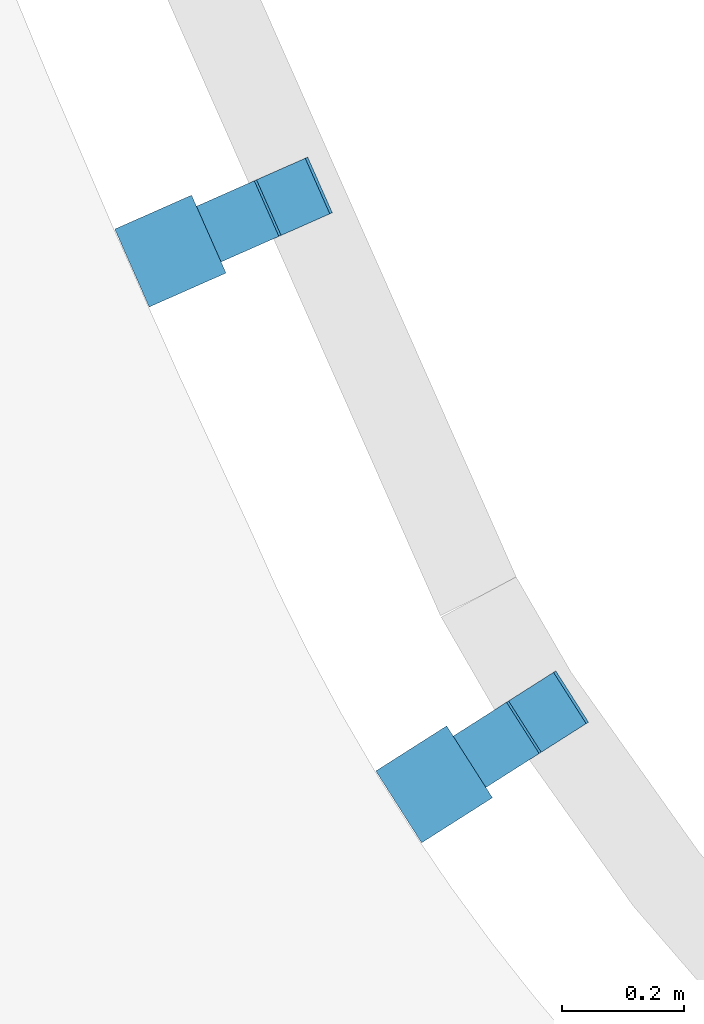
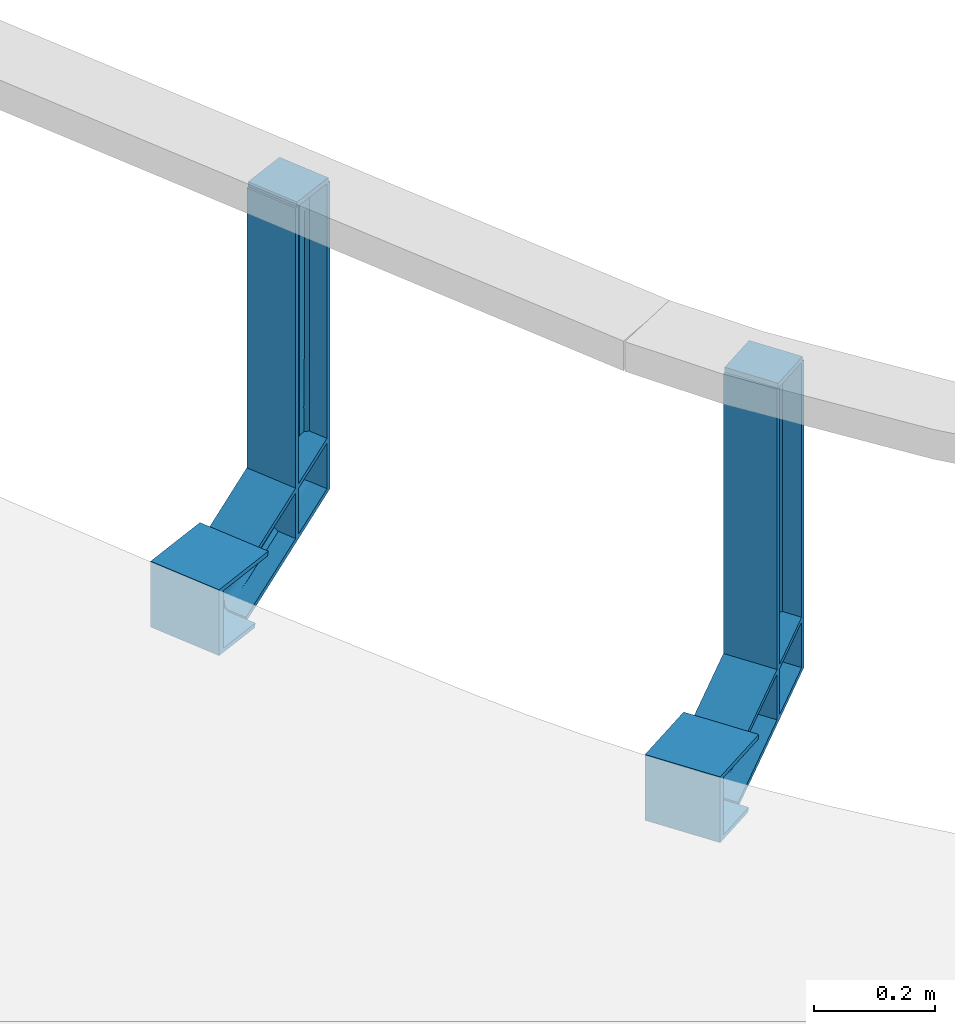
# One storey, part 34 of 68: 2 beams.
"""IFC2X3 building model written with IfcOpenShell, lengths in millimetres."""

import ifcopenshell
import ifcopenshell.guid

model = None  # the IFC model being written
_history = None  # IfcOwnerHistory: only IFC2X3 demands one
_inside = {}  # id of a spatial element -> (the spatial element, [elements in it])
_under = {}  # id of a project, library or spatial element -> (it, [spatial elements below it])
_declared = {}  # id of a project -> (the project, [libraries it declares])
_typed = {}  # id of a type object -> (the type object, [elements of that type])
_made_of = {}  # id of a material, layer set ... -> (it, [elements and type objects made of it])


def new_model(schema):
    """Start an empty IFC model of exactly this schema.

    Asked for "IFC4X3", IfcOpenShell would pick the latest addendum, in which some entities
    have other attributes; the version numbers below select the first issue.
    IFC2X3 requires an IfcOwnerHistory on every rooted entity: one is made here for all.
    """
    global model, _history
    if schema == "IFC4X3":
        model = ifcopenshell.file(schema_version=(4, 3, 0, 0))
    else:
        model = ifcopenshell.file(schema=schema)
    _inside.clear()
    _under.clear()
    _declared.clear()
    _typed.clear()
    _made_of.clear()
    _history = None
    if model.schema == "IFC2X3":
        org = make("IfcOrganization", Name="unknown")
        user = make(
            "IfcPersonAndOrganization",
            ThePerson=make("IfcPerson", FamilyName="unknown"),
            TheOrganization=org,
        )
        app = make(
            "IfcApplication",
            ApplicationDeveloper=org,
            Version="unknown",
            ApplicationFullName="unknown",
            ApplicationIdentifier="unknown",
        )
        _history = make(
            "IfcOwnerHistory",
            OwningUser=user,
            OwningApplication=app,
            ChangeAction="ADDED",
            CreationDate=0,
        )
    return model


def make(cls, **values):
    """One entity of the class cls with the attributes given. An attribute that is None is left unset."""
    return model.create_entity(
        cls, **{name: value for name, value in values.items() if value is not None}
    )


def entity(cls, *values):
    """Any entity or typed value of the class cls, its attributes in the order of the schema. None: left unset."""
    e = model.create_entity(cls)
    for i, value in enumerate(values):
        if value is not None:
            e[i] = value
    return e


def rooted(cls, **values):
    """An entity with a GlobalId (a new one), such as an element, a storey or a relation."""
    return make(cls, GlobalId=ifcopenshell.guid.new(), OwnerHistory=_history, **values)


def si_unit(unit_type, name, prefix=None):
    """IfcSIUnit, for example si_unit("LENGTHUNIT", "METRE", prefix="MILLI")."""
    return make("IfcSIUnit", UnitType=unit_type, Prefix=prefix, Name=name)


def converted_unit(unit_type, name, factor, base, dimensions=None, offset=None):
    """IfcConversionBasedUnit, such as the inch: factor (a typed value) times the base unit."""
    return make(
        "IfcConversionBasedUnit"
        if offset is None
        else "IfcConversionBasedUnitWithOffset",
        ConversionOffset=offset,
        Dimensions=None
        if dimensions is None
        else entity("IfcDimensionalExponents", *dimensions),
        UnitType=unit_type,
        Name=name,
        ConversionFactor=make(
            "IfcMeasureWithUnit", ValueComponent=factor, UnitComponent=base
        ),
    )


def derived_unit(unit_type, elements):
    """IfcDerivedUnit: a product of units, each with its exponent."""
    return make(
        "IfcDerivedUnit",
        Elements=[
            make("IfcDerivedUnitElement", Unit=unit, Exponent=power)
            for unit, power in elements
        ],
        UnitType=unit_type,
    )


def assignment(units):
    """IfcUnitAssignment: the units of a project."""
    return None if units is None else make("IfcUnitAssignment", Units=units)


def point(xyz):
    """IfcCartesianPoint."""
    return None if xyz is None else make("IfcCartesianPoint", Coordinates=xyz)


def direction(xyz):
    """IfcDirection."""
    return None if xyz is None else make("IfcDirection", DirectionRatios=xyz)


def frame(location, z_axis=None, x_axis=None):
    """IfcAxis2Placement3D, a coordinate frame: its origin and axes. An axis left out is left unset."""
    return make(
        "IfcAxis2Placement3D",
        Location=point(location),
        Axis=direction(z_axis),
        RefDirection=direction(x_axis),
    )


def origin():
    """The frame at (0, 0, 0) with its axes left unset."""
    return frame((0.0, 0.0, 0.0))


def place(relative_to, where):
    """IfcLocalPlacement: puts the frame where relative to a parent placement (None: the world)."""
    return make(
        "IfcLocalPlacement", PlacementRelTo=relative_to, RelativePlacement=where
    )


def context(
    kind, dimensions, precision=None, world=None, true_north=None, identifier=None
):
    """IfcGeometricRepresentationContext, for example the 3D "Model" context."""
    return make(
        "IfcGeometricRepresentationContext",
        ContextIdentifier=identifier,
        ContextType=kind,
        CoordinateSpaceDimension=dimensions,
        Precision=precision,
        WorldCoordinateSystem=world,
        TrueNorth=true_north,
    )


def subcontext(parent, identifier, kind, view, scale=None):
    """IfcGeometricRepresentationSubContext, for example "Body" below "Model"."""
    return make(
        "IfcGeometricRepresentationSubContext",
        ContextIdentifier=identifier,
        ContextType=kind,
        ParentContext=parent,
        TargetScale=scale,
        TargetView=view,
    )


def project(units=None, contexts=None):
    """IfcProject with its units and contexts."""
    return rooted(
        "IfcProject",
        Name="project",
        RepresentationContexts=contexts,
        UnitsInContext=assignment(units),
    )


def spatial(cls, under=None, at=None, **own):
    """A site, building, storey or space (cls), placed at a placement, below another one or the project."""
    s = rooted(cls, ObjectPlacement=at, **own)
    if under is not None:
        _under.setdefault(under.id(), (under, []))[1].append(s)
    return s


def faces_of(points, faces, orient=None, outer=None):
    """IfcFace entities. A face is a list of loops; a loop is a list of indices into points, from 0.

    orient and outer hold one flag for each loop. By default every Orientation is true, the
    first loop of a face is its IfcFaceOuterBound and the others are IfcFaceBound.
    """
    made = []
    for i, loops in enumerate(faces):
        bounds = []
        for j, loop in enumerate(loops):
            is_outer = j == 0 if outer is None else outer[i][j]
            bounds.append(
                make(
                    "IfcFaceOuterBound" if is_outer else "IfcFaceBound",
                    Bound=make("IfcPolyLoop", Polygon=[points[k] for k in loop]),
                    Orientation=True if orient is None else orient[i][j],
                )
            )
        made.append(make("IfcFace", Bounds=bounds))
    return made


def faceted_brep(points, faces, orient=None, outer=None, voids=None):
    """IfcFacetedBrep: a solid bounded by flat faces; with voids (closed shells), ...WithVoids."""
    shared = [point(p) for p in points]
    hull = make("IfcClosedShell", CfsFaces=faces_of(shared, faces, orient, outer))
    if voids is None:
        return make("IfcFacetedBrep", Outer=hull)
    return make(
        "IfcFacetedBrepWithVoids",
        Outer=hull,
        Voids=[
            make(cls, CfsFaces=faces_of(shared, fs, o, b)) for cls, fs, o, b in voids
        ],
    )


def shape(context_of_items, identifier, shape_type, items):
    """IfcShapeRepresentation: the items that make up one representation, for example the "Body"."""
    return make(
        "IfcShapeRepresentation",
        ContextOfItems=context_of_items,
        RepresentationIdentifier=identifier,
        RepresentationType=shape_type,
        Items=items,
    )


def source(mapping_origin, context_of_items, identifier, shape_type, items):
    """IfcRepresentationMap: a shape defined once, which mapped items show again and again."""
    return make(
        "IfcRepresentationMap",
        MappingOrigin=mapping_origin,
        MappedRepresentation=shape(context_of_items, identifier, shape_type, items),
    )


def transform(
    local_origin,
    x_axis=None,
    y_axis=None,
    z_axis=None,
    scale=None,
    scale2=None,
    scale3=None,
    uniform=True,
):
    """IfcCartesianTransformationOperator3D, or its non-uniform kind. x_axis, y_axis, z_axis: its Axis1, 2, 3."""
    if uniform:
        return make(
            "IfcCartesianTransformationOperator3D",
            Axis1=direction(x_axis),
            Axis2=direction(y_axis),
            LocalOrigin=point(local_origin),
            Scale=scale,
            Axis3=direction(z_axis),
        )
    return make(
        "IfcCartesianTransformationOperator3DnonUniform",
        Axis1=direction(x_axis),
        Axis2=direction(y_axis),
        LocalOrigin=point(local_origin),
        Scale=scale,
        Axis3=direction(z_axis),
        Scale2=scale2,
        Scale3=scale3,
    )


def mapped(mapping_source, mapping_target):
    """IfcMappedItem: shows the shape of a source again, moved by a transform."""
    return make(
        "IfcMappedItem", MappingSource=mapping_source, MappingTarget=mapping_target
    )


def material(Name=None, Category=None):
    """IfcMaterial."""
    return make("IfcMaterial", Name=Name, Category=Category)


def made_of(thing, what):
    """Note that an element or type object is made of a material, layer set ...; save() writes the relation."""
    if what is not None:
        _made_of.setdefault(what.id(), (what, []))[1].append(thing)
    return thing


def type_object(cls, material=None, **own):
    """A type object (cls), such as IfcWallType, which elements share."""
    return made_of(rooted(cls, **own), material)


def type_shapes(of_type, sources):
    """Give a type object the sources (RepresentationMaps) that its elements show as mapped items."""
    of_type.RepresentationMaps = sources


def element(
    cls,
    number,
    at=None,
    inside=None,
    cuts=None,
    type_object=None,
    material=None,
    context=None,
    identifier="Body",
    shape_type=None,
    held_by="IfcProductDefinitionShape",
    body=None,
    shapes=None,
    **own,
):
    """One element of the class cls, such as IfcWall. Its Tag is "e" and its number.

    at: its placement. inside: the storey or other place that contains it. cuts: it is an
    opening in that element (IfcRelVoidsElement). A single representation is given by context,
    identifier, shape_type and body (its items); several are given by shapes. held_by: the class
    of the entity that holds the representations. save() writes the other relations.
    """
    e = rooted(cls, Tag="e%d" % number, ObjectPlacement=at, **own)
    if body is not None:
        shapes = [shape(context, identifier, shape_type, body)]
    if shapes is not None:
        e.Representation = make(held_by, Representations=shapes)
    if inside is not None:
        _inside.setdefault(inside.id(), (inside, []))[1].append(e)
    if cuts is not None:
        rooted(
            "IfcRelVoidsElement", RelatingBuildingElement=cuts, RelatedOpeningElement=e
        )
    if type_object is not None:
        _typed.setdefault(type_object.id(), (type_object, []))[1].append(e)
    return made_of(e, material)


def aggregate(whole, parts):
    """IfcRelAggregates: a whole, such as a stair, and the parts it consists of."""
    return rooted("IfcRelAggregates", RelatingObject=whole, RelatedObjects=parts)


def save(model, path):
    """Write the relations noted so far, then the file.

    IfcRelAggregates (storeys below a building ...), IfcRelContainedInSpatialStructure (elements
    in a storey), IfcRelDefinesByType, IfcRelAssociatesMaterial and IfcRelDeclares: one each for
    every whole, place, type object, material and project.
    """
    for whole, parts in _under.values():
        aggregate(whole, parts)
    for where, things in _inside.values():
        rooted(
            "IfcRelContainedInSpatialStructure",
            RelatedElements=things,
            RelatingStructure=where,
        )
    for kind, things in _typed.values():
        rooted("IfcRelDefinesByType", RelatedObjects=things, RelatingType=kind)
    for what, things in _made_of.values():
        rooted("IfcRelAssociatesMaterial", RelatedObjects=things, RelatingMaterial=what)
    for by, libraries in _declared.values():
        rooted("IfcRelDeclares", RelatingContext=by, RelatedDefinitions=libraries)
    model.write(path)


model = new_model("IFC2X3")

# Units and contexts
model_context = context("Model", 3, precision=0.01, world=origin(), true_north=direction((6.12303176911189e-17, 1.0)))
body_context = subcontext(model_context, "Body", "Model", "MODEL_VIEW")
ifc_project = project(units=[si_unit("LENGTHUNIT", "METRE", prefix="MILLI"), si_unit("AREAUNIT", "SQUARE_METRE", prefix="MILLI"), si_unit("VOLUMEUNIT", "CUBIC_METRE"), converted_unit("PLANEANGLEUNIT", "DEGREE", entity("IfcRatioMeasure", 0.0174532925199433), si_unit("PLANEANGLEUNIT", "RADIAN"), dimensions=[0, 0, 0, 0, 0, 0, 0]), si_unit("MASSUNIT", "GRAM", prefix="KILO"), derived_unit("MASSDENSITYUNIT", [(si_unit("MASSUNIT", "GRAM", prefix="KILO"), 1), (si_unit("LENGTHUNIT", "METRE"), -3)]), derived_unit("MOMENTOFINERTIAUNIT", [(si_unit("LENGTHUNIT", "METRE"), 4)]), si_unit("TIMEUNIT", "SECOND"), si_unit("FREQUENCYUNIT", "HERTZ"), si_unit("THERMODYNAMICTEMPERATUREUNIT", "DEGREE_CELSIUS"), derived_unit("THERMALTRANSMITTANCEUNIT", [(si_unit("MASSUNIT", "GRAM", prefix="KILO"), 1), (si_unit("THERMODYNAMICTEMPERATUREUNIT", "KELVIN"), -1), (si_unit("TIMEUNIT", "SECOND"), -3)]), derived_unit("VOLUMETRICFLOWRATEUNIT", [(si_unit("LENGTHUNIT", "METRE"), 3), (si_unit("TIMEUNIT", "SECOND"), -1)]), si_unit("ELECTRICCURRENTUNIT", "AMPERE"), si_unit("ELECTRICVOLTAGEUNIT", "VOLT"), si_unit("POWERUNIT", "WATT"), si_unit("FORCEUNIT", "NEWTON", prefix="KILO"), si_unit("ILLUMINANCEUNIT", "LUX"), si_unit("LUMINOUSFLUXUNIT", "LUMEN"), si_unit("LUMINOUSINTENSITYUNIT", "CANDELA"), derived_unit("USERDEFINED", [(si_unit("MASSUNIT", "GRAM", prefix="KILO"), -1), (si_unit("LENGTHUNIT", "METRE"), -2), (si_unit("TIMEUNIT", "SECOND"), 3), (si_unit("LUMINOUSFLUXUNIT", "LUMEN"), 1)]), derived_unit("LINEARVELOCITYUNIT", [(si_unit("LENGTHUNIT", "METRE"), 1), (si_unit("TIMEUNIT", "SECOND"), -1)]), si_unit("PRESSUREUNIT", "PASCAL"), derived_unit("USERDEFINED", [(si_unit("LENGTHUNIT", "METRE"), -2), (si_unit("MASSUNIT", "GRAM", prefix="KILO"), 1), (si_unit("TIMEUNIT", "SECOND"), -2)]), derived_unit("LINEARFORCEUNIT", [(si_unit("MASSUNIT", "GRAM", prefix="KILO"), 1), (si_unit("LENGTHUNIT", "METRE"), 1), (si_unit("TIMEUNIT", "SECOND"), -2), (si_unit("LENGTHUNIT", "METRE"), -1)]), derived_unit("PLANARFORCEUNIT", [(si_unit("MASSUNIT", "GRAM", prefix="KILO"), 1), (si_unit("LENGTHUNIT", "METRE"), 1), (si_unit("TIMEUNIT", "SECOND"), -2), (si_unit("LENGTHUNIT", "METRE"), -2)])], contexts=[model_context])

# Site, building, storey
site_placement = place(None, origin())
site = spatial("IfcSite", under=ifc_project, at=site_placement, Name="Theater aan de Parade", CompositionType="ELEMENT")
building_placement = place(site_placement, origin())
building = spatial("IfcBuilding", under=site, at=building_placement, Name="Theater aan de Parade", CompositionType="ELEMENT")
storey_placement = place(building_placement, frame((0.0, 0.0, 8750.0)))
storey = spatial("IfcBuildingStorey", under=building, at=storey_placement, Name="02 tweede verdieping", CompositionType="ELEMENT", Elevation=8750.0)

# Beams
ifc_material = material(Name="00_PBT_MAT_staal_S355")
beam_type = type_object("IfcBeamType", Name="28_PBT_SF_staal_baluster balkon:baluster HEA100", PredefinedType="BEAM", material=ifc_material)
shared_shape = source(origin(), body_context, "Body", "Brep", [
    faceted_brep([(50.0, -43.537813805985, 625.0), (50.0, 44.0, 625.0), (50.0, 44.0, 635.0), (50.0, -43.537813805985, 635.0), (-50.0, -43.537813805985, 625.0), (-50.0, -43.537813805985, 635.0), (-50.0, 44.0, 635.0), (-50.0, 44.0, 625.0)], [[[0, 1, 2, 3]], [[4, 5, 6, 7]], [[1, 0, 4, 7]], [[2, 1, 7, 6]], [[3, 2, 6, 5]], [[0, 3, 5, 4]]]),
    faceted_brep([(70.0, 278.0, -133.0), (70.0, 290.0, -133.0), (70.0, 290.0, 0.0), (70.0, 278.0, 0.0), (-70.0, 278.0, -133.0), (-70.0, 278.0, 0.0), (-70.0, 290.0, 0.0), (-70.0, 290.0, -133.0)], [[[0, 1, 2, 3]], [[4, 5, 6, 7]], [[1, 0, 4, 7]], [[2, 1, 7, 6]], [[3, 2, 6, 5]], [[0, 3, 5, 4]]]),
    faceted_brep([(14.7499999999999, 278.0, -124.5), (70.0, 278.0, -124.5), (70.0, 278.0, -133.0), (-70.0, 278.0, -133.0), (-70.0, 278.0, -124.500000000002), (-14.7500000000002, 278.0, -124.500000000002), (-11.6441714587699, 278.0, -124.091109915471), (-8.75000000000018, 278.0, -122.892304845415), (-6.26471862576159, 278.0, -120.98528137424), (-4.3576951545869, 278.0, -118.500000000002), (-3.15889008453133, 278.0, -115.605828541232), (-2.75000000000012, 278.0, -112.500000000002), (-2.75000000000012, 278.0, -20.500000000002), (-3.15889008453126, 278.0, -17.3941714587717), (-4.35769515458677, 278.0, -14.500000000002), (-6.26471862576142, 278.0, -12.0147186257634), (-8.74999999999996, 278.0, -10.1076951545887), (-11.6441714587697, 278.0, -8.90889008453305), (-14.7500000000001, 278.0, -8.50000000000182), (-70.0, 278.0, -8.50000000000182), (-70.0, 278.0, 0.0), (70.0, 278.0, 0.0), (70.0, 278.0, -8.50000000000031), (14.7499999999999, 278.0, -8.50000000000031), (11.6441714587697, 278.0, -8.90889008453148), (8.74999999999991, 278.0, -10.107695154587), (6.26471862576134, 278.0, -12.0147186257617), (4.35769515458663, 278.0, -14.5000000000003), (3.15889008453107, 278.0, -17.39417145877), (2.74999999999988, 278.0, -20.5000000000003), (2.74999999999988, 278.0, -112.5), (3.15889008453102, 278.0, -115.60582854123), (4.35769515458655, 278.0, -118.5), (6.26471862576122, 278.0, -120.985281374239), (8.74999999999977, 278.0, -122.892304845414), (11.6441714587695, 278.0, -124.091109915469), (70.0, 151.923048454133, 0.0), (70.0, 154.37480362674, -8.50000000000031), (70.0, 187.834050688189, -124.5), (70.0, 190.285805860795, -133.0), (14.7499999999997, 154.37480362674, -8.50000000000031), (14.7499999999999, 214.85290376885, -8.50000000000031), (-14.7500000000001, 214.852897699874, -8.50000000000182), (-14.7500000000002, 154.37480362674, -8.50000000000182), (-70.0, 154.37480362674, -8.50000000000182), (6.43965673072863, 216.327371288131, -11.8433150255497), (2.74999999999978, 217.521900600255, -20.5000000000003), (12.079748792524, 154.461585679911, -8.8008650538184), (9.5433951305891, 154.717580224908, -9.68837358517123), (7.26812237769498, 155.129950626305, -11.1180222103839), (5.36802221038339, 155.678018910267, -13.0181223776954), (3.05086505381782, 157.065893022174, -17.8297487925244), (2.74999999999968, 157.83610504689, -20.5000000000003), (3.9383735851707, 156.334302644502, -15.2933951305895), (2.74999999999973, 184.372749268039, -112.5), (3.93837358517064, 185.874551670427, -117.706604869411), (3.05086505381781, 185.142961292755, -115.170251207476), (5.36802221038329, 186.530835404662, -119.981877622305), (7.26812237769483, 187.078903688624, -121.881977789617), (9.54339513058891, 187.491274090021, -123.311626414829), (12.0797487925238, 187.747268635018, -124.199134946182), (14.7499999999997, 187.834050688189, -124.5), (-70.0, 187.83405068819, -124.500000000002), (-14.7500000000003, 187.83405068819, -124.500000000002), (-70.0, 190.285805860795, -133.0), (-70.0, 151.923048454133, 0.0), (-9.54339513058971, 187.491274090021, -123.311626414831), (-12.0797487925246, 187.747268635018, -124.199134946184), (-7.2681223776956, 187.078903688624, -121.881977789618), (-5.36802221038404, 186.530835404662, -119.981877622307), (-3.93837358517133, 185.874551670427, -117.706604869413), (-3.05086505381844, 185.142961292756, -115.170251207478), (-2.75000000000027, 184.37274926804, -112.500000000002), (-2.75000000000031, 157.83610504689, -20.500000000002), (-2.75000000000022, 217.521907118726, -20.5000000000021), (-6.43965718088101, 216.327373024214, -11.8433145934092), (-3.05086505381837, 157.065893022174, -17.8297487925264), (-3.93837358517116, 156.334302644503, -15.2933951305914), (-5.36802221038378, 155.678018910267, -13.0181223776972), (-7.2681223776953, 155.129950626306, -11.1180222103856), (-9.54339513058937, 154.717580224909, -9.68837358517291), (-12.0797487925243, 154.461585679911, -8.80086505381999)], [[[0, 1, 2, 3, 4, 5, 6, 7, 8, 9, 10, 11, 12, 13, 14, 15, 16, 17, 18, 19, 20, 21, 22, 23, 24, 25, 26, 27, 28, 29, 30, 31, 32, 33, 34, 35]], [[22, 21, 36, 37]], [[2, 1, 38, 39]], [[23, 22, 37, 40, 41]], [[19, 18, 42, 43, 44]], [[24, 45, 25]], [[25, 45, 26]], [[27, 45, 46]], [[41, 40, 47]], [[23, 41, 24]], [[27, 26, 45]], [[41, 47, 48]], [[45, 49, 50]], [[46, 29, 28]], [[48, 45, 41]], [[46, 28, 27]], [[51, 52, 46]], [[51, 46, 53]], [[45, 53, 46]], [[50, 53, 45]], [[48, 49, 45]], [[41, 45, 24]], [[30, 29, 46, 52, 54]], [[55, 32, 31]], [[56, 31, 30]], [[30, 54, 56]], [[32, 55, 57]], [[55, 31, 56]], [[57, 33, 32]], [[34, 33, 58]], [[35, 34, 59]], [[0, 35, 60]], [[34, 58, 59]], [[0, 60, 61]], [[60, 35, 59]], [[57, 58, 33]], [[1, 0, 61, 38]], [[5, 4, 62, 63]], [[3, 2, 39, 64]], [[4, 3, 64, 62]], [[20, 19, 44, 65]], [[66, 7, 6]], [[67, 6, 5]], [[5, 63, 67]], [[7, 66, 68]], [[66, 6, 67]], [[68, 8, 7]], [[9, 8, 69]], [[10, 9, 70]], [[11, 10, 71]], [[9, 69, 70]], [[11, 71, 72]], [[71, 10, 70]], [[68, 69, 8]], [[12, 11, 72, 73, 74]], [[74, 14, 13]], [[75, 15, 14]], [[17, 16, 75]], [[74, 73, 76]], [[16, 15, 75]], [[76, 77, 74]], [[75, 78, 79]], [[80, 81, 42]], [[77, 75, 74]], [[12, 74, 13]], [[75, 42, 17]], [[42, 18, 17]], [[42, 81, 43]], [[75, 80, 42]], [[80, 75, 79]], [[77, 78, 75]], [[75, 14, 74]], [[21, 20, 65, 36]], [[61, 60, 59, 58, 57, 55, 56, 54, 52, 51, 53, 50, 49, 48, 47, 40, 37, 36, 65, 44, 43, 81, 80, 79, 78, 77, 76, 73, 72, 71, 70, 69, 68, 66, 67, 63, 62, 64, 39, 38]]]),
    faceted_brep([(50.0, 155.119944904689, -11.0833333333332), (50.0, 151.923048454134, 0.0), (50.0, -48.0, 115.425625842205), (50.0, -48.0, 106.188021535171), (50.0, 190.285805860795, -133.0), (50.0, 187.08890941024, -121.916666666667), (50.0, -48.0, 13.8119784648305), (50.0, -48.0, 4.57437415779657), (14.4999999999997, 155.119944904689, -11.0833333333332), (14.4999999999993, -48.0, 106.188021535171), (14.4999999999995, 4.37555520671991, 75.9489806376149), (14.4999999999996, 56.7511250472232, 45.7099312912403), (-50.0, 155.119944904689, -11.0833333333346), (-14.5000000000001, 155.119944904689, -11.0833333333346), (-14.5000000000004, 56.7511361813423, 45.7099248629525), (-14.5000000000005, 4.37556274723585, 75.9489762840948), (-14.5000000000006, -48.0, 106.188021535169), (-50.0, -48.0, 106.188021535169), (12.1589161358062, 155.212086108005, -11.4027780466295), (6.13940978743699, 85.6560198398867, 25.105130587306), (9.9077988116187, 155.484968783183, -12.348836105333), (2.80086505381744, -48.0, 95.4149555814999), (2.49999999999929, -48.0, 92.3316150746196), (2.49999999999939, 4.37556701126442, 62.092567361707), (2.49999999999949, 55.164155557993, 32.7697620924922), (6.04197655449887, 10.2229142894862, 68.5459327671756), (2.49999999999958, 107.539722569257, 2.53071437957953), (2.49999999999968, 159.915289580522, -27.7083333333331), (2.73057663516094, 158.979764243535, -24.4649567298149), (7.83315720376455, 155.92810620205, -13.8851510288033), (11.8297487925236, -48.0, 105.840612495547), (3.41344560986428, 158.0801906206, -21.3462212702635), (4.52236465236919, 157.25113882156, -18.4719782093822), (7.01812237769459, -48.0, 103.164989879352), (5.11802221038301, -48.0, 100.970943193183), (3.68837358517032, -48.0, 98.3436845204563), (9.29339513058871, -48.0, 104.815805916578), (6.01471862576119, 156.524468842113, -15.9526830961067), (2.49999999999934, -48.0, 27.6683849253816), (2.49999999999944, 4.37556959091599, -2.57066427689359), (2.49999999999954, 56.7511354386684, -32.8097113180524), (2.49999999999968, 129.917998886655, -75.052619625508), (2.49999999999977, 182.293564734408, -105.291666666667), (4.52236465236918, 184.957715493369, -114.528021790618), (6.30956465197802, 103.743785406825, -70.0679088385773), (6.01471862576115, 185.684385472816, -117.047316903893), (14.4999999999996, 134.713341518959, -91.6776184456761), (9.90779881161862, 186.723885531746, -120.651163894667), (7.83315720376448, 186.280748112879, -119.114848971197), (12.1589161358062, 186.996768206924, -121.597221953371), (14.4999999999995, 69.5444547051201, -54.0523441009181), (5.87838992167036, 26.3899882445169, -24.9186641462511), (14.4999999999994, 4.3755678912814, -16.4270697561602), (5.11802221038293, -48.0, 19.0290568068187), (3.4134456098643, 184.128663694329, -111.653778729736), (2.80086505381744, -48.0, 24.5850444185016), (3.68837358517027, -48.0, 21.6563154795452), (14.4999999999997, 187.08890941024, -121.916666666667), (7.01812237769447, -48.0, 16.8350101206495), (9.29339513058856, -48.0, 15.1841940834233), (2.73057663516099, 183.229090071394, -108.535043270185), (14.4999999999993, -48.0, 13.8119784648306), (11.8297487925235, -48.0, 14.1593875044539), (-50.0, 187.088909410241, -121.916666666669), (-50.0, -48.0, 13.8119784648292), (-14.5000000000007, -48.0, 13.8119784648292), (-14.5000000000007, 4.37556899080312, -16.4270703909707), (-14.5000000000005, 69.5444561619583, -54.0523449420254), (-14.5000000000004, 134.713343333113, -91.6776194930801), (-14.5000000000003, 187.088909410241, -121.916666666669), (-50.0, 190.285805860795, -133.0), (-50.0, -48.0, 4.57437415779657), (-50.0, 151.923048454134, 0.0), (-50.0, -48.0, 115.425625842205), (-6.30956482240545, 103.743788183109, -70.0679106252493), (-3.41344560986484, 184.128663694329, -111.653778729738), (-4.52236465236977, 184.95771549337, -114.52802179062), (-2.50000000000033, 129.917999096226, -75.0526197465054), (-9.29339513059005, -48.0, 15.1841940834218), (-7.01812237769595, -48.0, 16.835010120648), (-5.87838988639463, 26.389986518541, -24.9186631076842), (-7.8331572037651, 186.28074811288, -119.114848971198), (-6.01471862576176, 185.684385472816, -117.047316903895), (-11.829748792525, -48.0, 14.1593875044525), (-5.11802221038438, -48.0, 19.0290568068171), (-2.50000000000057, 4.37557526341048, -2.57066755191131), (-2.50000000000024, 182.293564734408, -105.291666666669), (-2.7305766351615, 183.229090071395, -108.535043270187), (-9.90779881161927, 186.723885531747, -120.651163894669), (-12.1589161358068, 186.996768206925, -121.597221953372), (-2.80086505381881, -48.0, 24.5850444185), (-2.50000000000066, -48.0, 27.6683849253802), (-2.50000000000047, 56.7511409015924, -32.8097144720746), (-3.68837358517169, -48.0, 21.6563154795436), (-2.50000000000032, 159.915289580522, -27.708333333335), (-2.50000000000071, -48.0, 92.3316150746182), (-2.50000000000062, 4.37556371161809, 62.0925692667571), (-2.50000000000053, 55.1641543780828, 32.7697627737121), (-2.50000000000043, 107.539718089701, 2.53071696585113), (-2.73057663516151, 158.979764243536, -24.464956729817), (-11.8297487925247, -48.0, 105.840612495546), (-6.01471862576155, 156.524468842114, -15.9526830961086), (-6.13940988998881, 85.6560228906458, 25.1051289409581), (-7.83315720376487, 155.92810620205, -13.885151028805), (-5.11802221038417, -48.0, 100.970943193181), (-7.0181223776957, -48.0, 103.16498987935), (-6.04197656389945, 10.2229155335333, 68.5459320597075), (-9.90779881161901, 155.484968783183, -12.3488361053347), (-4.52236465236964, 157.25113882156, -18.4719782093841), (-2.80086505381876, -48.0, 95.4149555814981), (-3.68837358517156, -48.0, 98.3436845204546), (-12.1589161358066, 155.212086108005, -11.402778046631), (-3.41344560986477, 158.080190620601, -21.3462212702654), (-9.29339513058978, -48.0, 104.815805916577)], [[[0, 1, 2, 3]], [[4, 5, 6, 7]], [[8, 0, 3, 9, 10, 11]], [[12, 13, 14, 15, 16, 17]], [[18, 19, 20]], [[21, 22, 23]], [[23, 24, 25]], [[26, 27, 28]], [[29, 20, 19]], [[26, 19, 24]], [[10, 25, 11]], [[8, 11, 18]], [[18, 11, 19]], [[11, 25, 19]], [[19, 25, 24]], [[10, 9, 30]], [[31, 32, 26]], [[33, 34, 25]], [[35, 25, 34]], [[23, 25, 35]], [[33, 25, 36]], [[28, 31, 26]], [[37, 19, 32]], [[36, 10, 30]], [[19, 26, 32]], [[21, 23, 35]], [[25, 10, 36]], [[29, 19, 37]], [[27, 26, 24, 23, 22, 38, 39, 40, 41, 42]], [[43, 44, 45]], [[46, 47, 48]], [[49, 47, 46]], [[50, 51, 52]], [[51, 39, 53]], [[44, 43, 54]], [[39, 38, 55]], [[56, 39, 55]], [[46, 57, 49]], [[44, 41, 40]], [[51, 53, 58]], [[44, 48, 45]], [[58, 59, 51]], [[44, 54, 41]], [[60, 41, 54]], [[51, 44, 40]], [[61, 52, 62]], [[51, 40, 39]], [[50, 46, 44]], [[46, 48, 44]], [[53, 39, 56]], [[60, 42, 41]], [[62, 52, 59]], [[50, 44, 51]], [[59, 52, 51]], [[5, 57, 46, 50, 52, 61, 6]], [[63, 64, 65, 66, 67, 68, 69]], [[70, 4, 7, 71]], [[63, 70, 71, 64]], [[72, 12, 17, 73]], [[74, 68, 67]], [[74, 75, 76]], [[75, 74, 77]], [[78, 79, 80]], [[81, 74, 82]], [[78, 66, 83]], [[84, 85, 80]], [[77, 86, 87]], [[68, 81, 88]], [[89, 68, 88]], [[90, 91, 85]], [[80, 74, 67]], [[66, 78, 80]], [[74, 80, 92]], [[66, 65, 83]], [[92, 80, 85]], [[90, 85, 93]], [[85, 84, 93]], [[81, 68, 74]], [[79, 84, 80]], [[68, 89, 69]], [[76, 82, 74]], [[92, 77, 74]], [[75, 77, 87]], [[66, 80, 67]], [[94, 86, 77, 92, 85, 91, 95, 96, 97, 98]], [[98, 99, 94]], [[100, 16, 15]], [[101, 102, 103]], [[104, 105, 106]], [[103, 102, 107]], [[108, 102, 101]], [[102, 106, 14]], [[102, 97, 106]], [[108, 98, 102]], [[96, 109, 110]], [[102, 111, 107]], [[96, 106, 97]], [[104, 106, 110]], [[99, 98, 112]], [[106, 15, 14]], [[108, 112, 98]], [[100, 15, 113]], [[111, 102, 14]], [[110, 106, 96]], [[98, 97, 102]], [[15, 106, 113]], [[14, 13, 111]], [[113, 106, 105]], [[96, 95, 109]], [[1, 72, 73, 2]], [[61, 62, 59, 58, 53, 56, 55, 38, 22, 21, 35, 34, 33, 36, 30, 9, 3, 2, 73, 17, 16, 100, 113, 105, 104, 110, 109, 95, 91, 90, 93, 84, 79, 78, 83, 65, 64, 71, 7, 6]], [[8, 18, 20, 29, 37, 32, 31, 28, 27, 42, 60, 54, 43, 45, 48, 47, 49, 57, 5, 4, 70, 63, 69, 89, 88, 81, 82, 76, 75, 87, 86, 94, 99, 112, 108, 101, 103, 107, 111, 13, 12, 72, 1, 0]]]),
    faceted_brep([(14.4999999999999, 40.0, 625.0), (50.0, 40.0, 625.0), (50.0, 48.0, 625.0), (-50.0, 48.0, 625.0), (-50.0, 40.0, 625.0), (-14.5000000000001, 40.0, 625.0), (-11.3941714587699, 39.5911099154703, 625.0), (-8.50000000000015, 38.3923048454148, 625.0), (-6.01471862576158, 36.4852813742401, 625.0), (-4.10769515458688, 34.0, 625.0), (-2.90889008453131, 31.1058285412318, 625.0), (-2.50000000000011, 28.0, 625.0), (-2.50000000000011, -28.0, 625.0), (-2.90889008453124, -31.1058285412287, 625.0), (-4.10769515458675, -34.0, 625.0), (-6.01471862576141, -36.4852813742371, 625.0), (-8.49999999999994, -38.3923048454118, 625.0), (-11.3941714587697, -39.5911099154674, 625.0), (-14.5000000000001, -40.0, 625.0), (-50.0, -40.0, 625.0), (-50.0, -48.0, 625.0), (50.0, -48.0, 625.0), (50.0, -40.0, 625.0), (14.4999999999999, -40.0, 625.0), (11.3941714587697, -39.5911099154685, 625.0), (8.49999999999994, -38.392304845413, 625.0), (6.01471862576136, -36.4852813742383, 625.0), (4.10769515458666, -34.0, 625.0), (2.90889008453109, -31.10582854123, 625.0), (2.49999999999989, -28.0, 625.0), (2.49999999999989, 28.0, 625.0), (2.90889008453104, 31.1058285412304, 625.0), (4.10769515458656, 34.0, 625.0), (6.01471862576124, 36.4852813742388, 625.0), (8.4999999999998, 38.3923048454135, 625.0), (11.3941714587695, 39.5911099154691, 625.0), (50.0, -48.0, 165.0), (50.0, -48.0, 4.57437415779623), (50.0, -40.0, -0.0444279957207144), (50.0, 40.0, -46.2324495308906), (50.0, 48.0, -50.8512516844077), (14.4999999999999, -40.0, -0.0444279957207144), (14.4999999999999, -40.0, 60.433662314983), (14.4999999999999, -40.0, 156.216673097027), (14.4999999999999, -40.0, 234.347235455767), (14.4999999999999, -40.0, 312.477797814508), (14.4999999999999, -40.0, 390.608336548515), (14.4999999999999, -40.0, 468.738898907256), (14.4999999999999, -40.0, 564.521909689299), (-14.4999999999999, -40.0, 564.521898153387), (-14.4999999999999, -40.0, 468.738893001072), (-14.4999999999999, -40.0, 390.608339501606), (-14.4999999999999, -40.0, 312.477786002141), (-14.5, -40.0, 234.347232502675), (-14.5, -40.0, 156.21667900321), (-14.5, -40.0, 60.4336544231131), (-14.5, -40.0, -0.0444279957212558), (-50.0, -40.0, -0.0444279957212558), (6.01471822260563, -36.4852809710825, 534.282851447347), (6.38111782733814, -36.8365011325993, 422.595542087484), (2.49999999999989, -28.0, 429.969869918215), (2.49999999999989, -28.0, 504.043806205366), (7.01812237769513, -37.3819777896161, -1.55594382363), (5.87838991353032, -36.3467262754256, 83.7445110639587), (9.29339513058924, -38.8116264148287, -0.730535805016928), (2.49999999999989, -28.0, 564.521903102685), (5.11802221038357, -35.4818776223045, -2.65296716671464), (11.8297487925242, -39.6991349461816, -0.21813251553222), (5.33717277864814, -35.7487158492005, 157.721305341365), (6.03175640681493, -36.5022850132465, 273.412504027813), (2.49999999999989, -28.0, 113.983554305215), (2.80086505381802, -30.6702512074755, -5.43096097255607), (2.49999999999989, -28.0, -6.97263122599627), (2.49999999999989, -28.0, 53.5054574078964), (6.45584074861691, -36.9045775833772, 351.543056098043), (3.68837358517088, -33.2066048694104, -3.96659650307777), (2.49999999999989, -28.0, 174.461651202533), (2.49999999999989, -28.0, 234.939748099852), (2.49999999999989, -28.0, 332.454809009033), (2.49999999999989, 28.0, -39.3042463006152), (2.49999999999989, 28.0, 21.173847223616), (2.49999999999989, 28.0, 81.6519407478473), (2.49999999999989, 28.0, 171.891681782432), (2.49999999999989, 28.0, 277.489637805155), (2.49999999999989, 28.0, 383.087609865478), (2.49999999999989, 28.0, 443.56570338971), (2.49999999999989, 28.0, 504.043796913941), (2.49999999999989, 28.0, 564.521906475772), (14.4999999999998, 40.0, 564.521898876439), (6.01471890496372, 36.4852816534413, 534.282850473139), (14.4999999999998, 40.0, 457.191892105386), (14.4999999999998, 40.0, 74.7237437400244), (5.87838987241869, 36.3467262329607, 51.4128968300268), (14.4999999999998, 40.0, 14.245651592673), (7.12980766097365, 37.4699664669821, 128.3887480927), (14.4999999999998, 40.0, 182.05375948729), (5.68142979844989, 36.138354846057, 331.335798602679), (14.4999999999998, 40.0, 289.383775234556), (14.4999999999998, 40.0, 373.287833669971), (6.48410362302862, 36.9300282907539, 264.631830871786), (3.68837358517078, 33.2066048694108, -42.3102810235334), (5.11802221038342, 35.481877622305, -43.6239103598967), (11.8297487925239, 39.6991349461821, -46.058745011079), (14.4999999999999, 40.0, -46.2324495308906), (9.29339513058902, 38.8116264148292, -45.5463417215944), (7.01812237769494, 37.3819777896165, -44.7209337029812), (5.85986411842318, 36.3275477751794, 197.731198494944), (5.34384824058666, 35.7566026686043, 460.437179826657), (2.80086505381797, 30.6702512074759, -40.8459165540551), (6.59968170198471, 37.0324399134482, 396.193688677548), (-50.0, 40.0, -46.2324495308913), (-14.5000000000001, 40.0, -46.2324495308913), (-14.5000000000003, 40.0, 14.245637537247), (-14.5000000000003, 40.0, 121.575655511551), (-14.5000000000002, 40.0, 205.479712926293), (-14.5000000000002, 40.0, 289.383770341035), (-14.5000000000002, 40.0, 373.287827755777), (-14.5000000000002, 40.0, 457.191885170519), (-14.5000000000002, 40.0, 564.521903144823), (-50.0, 48.0, -50.8512516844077), (-50.0, -48.0, 4.57437415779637), (-50.0, -48.0, 165.0), (-6.01471845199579, 36.4852812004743, 534.282853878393), (-5.34384807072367, 35.7566024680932, 460.437182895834), (-2.5000000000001, 28.0, 504.043796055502), (-2.5000000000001, 28.0, 564.521888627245), (-7.01812237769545, 37.3819777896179, -44.720933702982), (-9.29339513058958, 38.8116264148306, -45.5463417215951), (-5.68142973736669, 36.1383547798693, 331.33579885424), (-6.3722320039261, 36.8283286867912, 262.824412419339), (-2.5000000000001, 28.0, 383.087610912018), (-6.59968165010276, 37.0324398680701, 396.193689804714), (-11.8297487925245, 39.6991349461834, -46.0587450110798), (-6.18948395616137, 36.6565191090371, 51.4128959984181), (-5.11802221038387, 35.4818776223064, -43.6239103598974), (-3.68837358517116, 33.2066048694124, -42.3102810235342), (-2.80086505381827, 30.6702512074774, -40.8459165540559), (-2.5000000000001, 28.0, 21.1738462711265), (-2.5000000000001, 28.0, 81.6519388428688), (-5.3518166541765, 35.7659990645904, 125.002033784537), (-2.5000000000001, 28.0, -39.3042463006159), (-2.5000000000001, 28.0, 277.489637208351), (-2.5000000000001, 28.0, 443.56570348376), (-2.5000000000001, 28.0, 171.891682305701), (-5.88018165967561, 36.3485766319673, 194.135386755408), (-2.50000000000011, -28.0, -6.97263122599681), (-2.50000000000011, -28.0, 53.5054568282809), (-2.50000000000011, -28.0, 113.983561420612), (-2.50000000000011, -28.0, 174.461666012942), (-2.50000000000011, -28.0, 234.93975406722), (-2.50000000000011, -28.0, 332.454811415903), (-2.50000000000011, -28.0, 429.969885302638), (-2.50000000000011, -28.0, 504.043823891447), (-2.50000000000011, -28.0, 564.521911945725), (-9.29339513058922, -38.8116264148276, -0.730535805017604), (-5.8783899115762, -36.3467262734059, 83.7445122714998), (-5.33717271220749, -35.7487157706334, 157.721307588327), (-6.0147187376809, -36.4852814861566, 534.282853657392), (-6.45584072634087, -36.9045775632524, 351.543059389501), (-6.38111797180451, -36.8365012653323, 422.595548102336), (-2.80086505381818, -30.6702512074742, -5.43096097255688), (-3.688373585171, -33.2066048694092, -3.96659650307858), (-5.11802221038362, -35.4818776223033, -2.65296716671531), (-7.01812237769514, -37.3819777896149, -1.55594382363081), (-6.03175635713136, -36.5022849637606, 273.412506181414), (-11.8297487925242, -39.6991349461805, -0.218132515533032)], [[[0, 1, 2, 3, 4, 5, 6, 7, 8, 9, 10, 11, 12, 13, 14, 15, 16, 17, 18, 19, 20, 21, 22, 23, 24, 25, 26, 27, 28, 29, 30, 31, 32, 33, 34, 35]], [[22, 21, 36, 37, 38]], [[2, 1, 39, 40]], [[23, 22, 38, 41, 42, 43, 44, 45, 46, 47, 48]], [[19, 18, 49, 50, 51, 52, 53, 54, 55, 56, 57]], [[58, 26, 25]], [[26, 58, 27]], [[48, 47, 58]], [[59, 60, 61]], [[62, 63, 64]], [[28, 27, 65]], [[63, 62, 66]], [[42, 41, 67]], [[68, 69, 44]], [[63, 70, 68]], [[58, 61, 65]], [[42, 63, 43]], [[68, 43, 63]], [[64, 42, 67]], [[24, 23, 48]], [[71, 72, 73]], [[25, 48, 58]], [[69, 74, 45]], [[45, 74, 46]], [[65, 27, 58]], [[24, 48, 25]], [[71, 73, 75]], [[64, 63, 42]], [[70, 63, 73]], [[73, 66, 75]], [[58, 59, 61]], [[66, 73, 63]], [[65, 29, 28]], [[44, 69, 45]], [[76, 77, 68, 70]], [[44, 43, 68]], [[77, 78, 69]], [[78, 60, 74]], [[77, 69, 68]], [[59, 46, 74]], [[59, 74, 60]], [[78, 74, 69]], [[59, 47, 46]], [[47, 59, 58]], [[30, 29, 65, 61, 60, 78, 77, 76, 70, 73, 72, 79, 80, 81, 82, 83, 84, 85, 86, 87]], [[34, 88, 35]], [[89, 90, 88]], [[91, 92, 93]], [[33, 89, 34]], [[81, 80, 92]], [[94, 91, 95]], [[32, 89, 33]], [[96, 97, 98]], [[97, 96, 99]], [[100, 101, 92]], [[87, 86, 89]], [[31, 87, 32]], [[100, 92, 80]], [[102, 103, 93]], [[102, 93, 104]], [[32, 87, 89]], [[101, 105, 92]], [[93, 105, 104]], [[106, 95, 99]], [[88, 34, 89]], [[107, 89, 86]], [[88, 0, 35]], [[80, 108, 100]], [[80, 79, 108]], [[105, 93, 92]], [[31, 30, 87]], [[106, 94, 95]], [[94, 82, 81]], [[90, 89, 107]], [[92, 94, 81]], [[91, 94, 92]], [[82, 94, 106]], [[109, 98, 90]], [[107, 85, 109]], [[84, 109, 85]], [[109, 96, 98]], [[96, 84, 83]], [[106, 83, 82]], [[99, 96, 83]], [[97, 99, 95]], [[106, 99, 83]], [[96, 109, 84]], [[107, 86, 85]], [[107, 109, 90]], [[1, 0, 88, 90, 98, 97, 95, 91, 93, 103, 39]], [[5, 4, 110, 111, 112, 113, 114, 115, 116, 117, 118]], [[3, 2, 40, 119]], [[4, 3, 119, 110]], [[20, 19, 57, 120, 121]], [[8, 7, 122]], [[7, 118, 122]], [[123, 124, 122]], [[124, 125, 122]], [[126, 112, 127]], [[6, 5, 118]], [[6, 118, 7]], [[123, 122, 117]], [[128, 115, 129]], [[128, 130, 131]], [[112, 111, 132]], [[133, 126, 134]], [[8, 122, 9]], [[133, 113, 112]], [[133, 134, 135]], [[136, 137, 135]], [[118, 117, 122]], [[135, 137, 133]], [[138, 139, 133]], [[138, 133, 137]], [[122, 125, 9]], [[137, 136, 140]], [[127, 112, 132]], [[125, 11, 10]], [[112, 126, 133]], [[10, 9, 125]], [[113, 133, 139]], [[128, 141, 130]], [[142, 124, 123]], [[123, 117, 131]], [[115, 128, 116]], [[116, 128, 131]], [[139, 138, 143]], [[144, 114, 113]], [[113, 139, 144]], [[143, 144, 139]], [[144, 141, 129]], [[115, 114, 129]], [[144, 143, 141]], [[128, 129, 141]], [[144, 129, 114]], [[116, 131, 117]], [[130, 142, 131]], [[142, 123, 131]], [[11, 125, 124, 142, 130, 141, 143, 138, 137, 140, 145, 146, 147, 148, 149, 150, 151, 152, 153, 12]], [[49, 17, 16]], [[154, 55, 155]], [[156, 147, 155]], [[157, 153, 152]], [[14, 157, 15]], [[157, 16, 15]], [[158, 51, 159]], [[157, 50, 49]], [[160, 161, 146]], [[156, 155, 54]], [[49, 18, 17]], [[13, 153, 14]], [[12, 153, 13]], [[155, 162, 163]], [[151, 158, 159]], [[14, 153, 157]], [[146, 145, 160]], [[163, 154, 155]], [[155, 147, 146]], [[146, 162, 155]], [[164, 158, 150]], [[165, 56, 55]], [[54, 155, 55]], [[49, 16, 157]], [[161, 162, 146]], [[165, 55, 154]], [[159, 50, 157]], [[152, 159, 157]], [[148, 147, 156, 149]], [[149, 156, 164]], [[53, 52, 164]], [[156, 54, 53]], [[53, 164, 156]], [[51, 158, 52]], [[149, 164, 150]], [[52, 158, 164]], [[150, 158, 151]], [[152, 151, 159]], [[159, 51, 50]], [[21, 20, 121, 120, 37, 36]], [[103, 102, 104, 105, 101, 100, 108, 79, 72, 71, 75, 66, 62, 64, 67, 41, 38, 37, 120, 57, 56, 165, 154, 163, 162, 161, 160, 145, 140, 136, 135, 134, 126, 127, 132, 111, 110, 119, 40, 39]]]),
])
type_shapes(beam_type, [shared_shape])
for number, where, z_axis, x_axis, name in (
    (1, (54957.7092847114, 24798.4734753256, -2040.0), (0.0, 0.0, 1.0), (-0.404263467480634, 0.914642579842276, 0.0), "28_PBT_SF_staal_baluster balkon:baluster HEA100"),
    (2, (55375.5991548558, 23951.0773718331, -2040.0), (0.0, 0.0, 1.0), (-0.537030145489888, 0.843563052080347, 0.0), "28_PBT_SF_staal_baluster balkon:baluster HEA100"),
):
    element("IfcBeam", number, at=place(storey_placement, frame(where, z_axis=z_axis, x_axis=x_axis)), inside=storey, type_object=beam_type, material=ifc_material, Name=name, ObjectType="28_PBT_SF_staal_baluster balkon:baluster HEA100", context=body_context, shape_type="MappedRepresentation", body=[
        mapped(shared_shape, transform((0.0, 0.0, 0.0), scale=1.0)),
    ])

save(model, "model.ifc")
